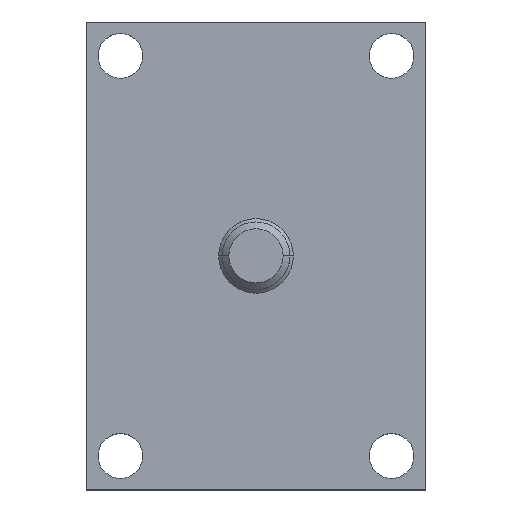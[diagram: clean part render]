
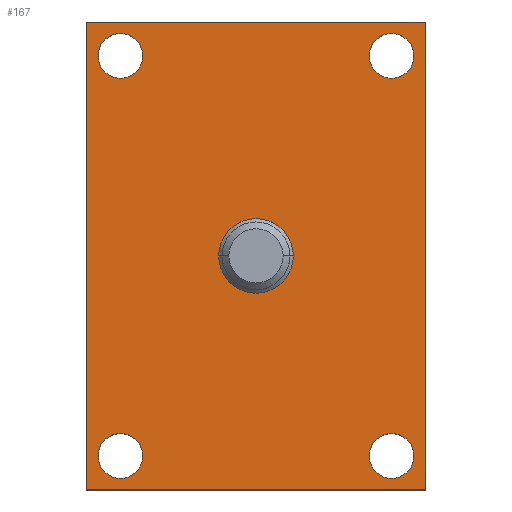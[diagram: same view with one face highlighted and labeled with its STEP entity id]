
A CAD part, top view. The second image highlights one B-rep face of the part: STEP entity #167.
In plain terms, the highlighted planar face has unit normal (0, 0, 1).
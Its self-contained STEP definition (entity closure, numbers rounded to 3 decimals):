
#117=CIRCLE('',#678,3.3);
#118=CIRCLE('',#679,3.3);
#119=CIRCLE('',#680,3.3);
#120=CIRCLE('',#681,3.3);
#121=CIRCLE('',#682,3.3);
#122=CIRCLE('',#683,3.3);
#123=CIRCLE('',#684,3.3);
#124=CIRCLE('',#685,3.3);
#125=CIRCLE('',#686,5.5);
#126=CIRCLE('',#687,5.5);
#149=FACE_BOUND('',#245,.T.);
#150=FACE_BOUND('',#246,.T.);
#151=FACE_BOUND('',#247,.T.);
#152=FACE_BOUND('',#248,.T.);
#153=FACE_BOUND('',#249,.T.);
#154=FACE_BOUND('',#250,.T.);
#167=ADVANCED_FACE('',(#149,#150,#151,#152,#153,#154),#200,.T.);
#200=PLANE('',#688);
#245=EDGE_LOOP('',(#301,#302,#303,#304));
#246=EDGE_LOOP('',(#305,#306));
#247=EDGE_LOOP('',(#307,#308));
#248=EDGE_LOOP('',(#309,#310));
#249=EDGE_LOOP('',(#311,#312));
#250=EDGE_LOOP('',(#313,#314));
#301=ORIENTED_EDGE('',*,*,#498,.T.);
#302=ORIENTED_EDGE('',*,*,#502,.T.);
#303=ORIENTED_EDGE('',*,*,#505,.T.);
#304=ORIENTED_EDGE('',*,*,#508,.T.);
#305=ORIENTED_EDGE('',*,*,#509,.T.);
#306=ORIENTED_EDGE('',*,*,#510,.T.);
#307=ORIENTED_EDGE('',*,*,#511,.T.);
#308=ORIENTED_EDGE('',*,*,#512,.T.);
#309=ORIENTED_EDGE('',*,*,#513,.T.);
#310=ORIENTED_EDGE('',*,*,#514,.T.);
#311=ORIENTED_EDGE('',*,*,#515,.T.);
#312=ORIENTED_EDGE('',*,*,#516,.T.);
#313=ORIENTED_EDGE('',*,*,#517,.T.);
#314=ORIENTED_EDGE('',*,*,#518,.T.);
#446=VERTEX_POINT('',#922);
#447=VERTEX_POINT('',#924);
#450=VERTEX_POINT('',#931);
#452=VERTEX_POINT('',#937);
#453=VERTEX_POINT('',#945);
#454=VERTEX_POINT('',#946);
#455=VERTEX_POINT('',#949);
#456=VERTEX_POINT('',#950);
#457=VERTEX_POINT('',#953);
#458=VERTEX_POINT('',#954);
#459=VERTEX_POINT('',#957);
#460=VERTEX_POINT('',#958);
#461=VERTEX_POINT('',#961);
#462=VERTEX_POINT('',#962);
#498=EDGE_CURVE('',#447,#446,#578,.T.);
#502=EDGE_CURVE('',#446,#450,#582,.T.);
#505=EDGE_CURVE('',#450,#452,#585,.T.);
#508=EDGE_CURVE('',#452,#447,#588,.T.);
#509=EDGE_CURVE('',#453,#454,#117,.T.);
#510=EDGE_CURVE('',#454,#453,#118,.T.);
#511=EDGE_CURVE('',#455,#456,#119,.T.);
#512=EDGE_CURVE('',#456,#455,#120,.T.);
#513=EDGE_CURVE('',#457,#458,#121,.T.);
#514=EDGE_CURVE('',#458,#457,#122,.T.);
#515=EDGE_CURVE('',#459,#460,#123,.T.);
#516=EDGE_CURVE('',#460,#459,#124,.T.);
#517=EDGE_CURVE('',#461,#462,#125,.T.);
#518=EDGE_CURVE('',#462,#461,#126,.T.);
#578=LINE('',#923,#626);
#582=LINE('',#932,#630);
#585=LINE('',#938,#633);
#588=LINE('',#942,#636);
#626=VECTOR('',#742,1.);
#630=VECTOR('',#748,1.);
#633=VECTOR('',#753,1.);
#636=VECTOR('',#758,1.);
#678=AXIS2_PLACEMENT_3D('',#944,#761,#762);
#679=AXIS2_PLACEMENT_3D('',#947,#763,#764);
#680=AXIS2_PLACEMENT_3D('',#948,#765,#766);
#681=AXIS2_PLACEMENT_3D('',#951,#767,#768);
#682=AXIS2_PLACEMENT_3D('',#952,#769,#770);
#683=AXIS2_PLACEMENT_3D('',#955,#771,#772);
#684=AXIS2_PLACEMENT_3D('',#956,#773,#774);
#685=AXIS2_PLACEMENT_3D('',#959,#775,#776);
#686=AXIS2_PLACEMENT_3D('',#960,#777,#778);
#687=AXIS2_PLACEMENT_3D('',#963,#779,#780);
#688=AXIS2_PLACEMENT_3D('',#964,#781,#782);
#742=DIRECTION('',(-1.,0.,0.));
#748=DIRECTION('',(0.,-1.,0.));
#753=DIRECTION('',(1.,0.,0.));
#758=DIRECTION('',(0.,1.,0.));
#761=DIRECTION('',(0.,0.,-1.));
#762=DIRECTION('',(-1.,0.,0.));
#763=DIRECTION('',(0.,0.,-1.));
#764=DIRECTION('',(1.,0.,0.));
#765=DIRECTION('',(0.,0.,-1.));
#766=DIRECTION('',(-1.,0.,0.));
#767=DIRECTION('',(0.,0.,-1.));
#768=DIRECTION('',(1.,0.,0.));
#769=DIRECTION('',(0.,0.,-1.));
#770=DIRECTION('',(-1.,0.,0.));
#771=DIRECTION('',(0.,0.,-1.));
#772=DIRECTION('',(1.,0.,0.));
#773=DIRECTION('',(0.,0.,-1.));
#774=DIRECTION('',(-1.,0.,0.));
#775=DIRECTION('',(0.,0.,-1.));
#776=DIRECTION('',(1.,0.,0.));
#777=DIRECTION('',(0.,0.,-1.));
#778=DIRECTION('',(-1.,0.,0.));
#779=DIRECTION('',(0.,0.,-1.));
#780=DIRECTION('',(1.,0.,0.));
#781=DIRECTION('',(0.,0.,1.));
#782=DIRECTION('',(-1.,0.,0.));
#922=CARTESIAN_POINT('',(-25.,34.5,9.));
#923=CARTESIAN_POINT('',(-25.,34.5,9.));
#924=CARTESIAN_POINT('',(25.,34.5,9.));
#931=CARTESIAN_POINT('',(-25.,-34.5,9.));
#932=CARTESIAN_POINT('',(-25.,34.5,9.));
#937=CARTESIAN_POINT('',(25.,-34.5,9.));
#938=CARTESIAN_POINT('',(-25.,-34.5,9.));
#942=CARTESIAN_POINT('',(25.,34.5,9.));
#944=CARTESIAN_POINT('',(20.,29.5,9.));
#945=CARTESIAN_POINT('',(20.,32.8,9.));
#946=CARTESIAN_POINT('',(20.,26.2,9.));
#947=CARTESIAN_POINT('',(20.,29.5,9.));
#948=CARTESIAN_POINT('',(-20.,29.5,9.));
#949=CARTESIAN_POINT('',(-20.,32.8,9.));
#950=CARTESIAN_POINT('',(-20.,26.2,9.));
#951=CARTESIAN_POINT('',(-20.,29.5,9.));
#952=CARTESIAN_POINT('',(20.,-29.5,9.));
#953=CARTESIAN_POINT('',(20.,-26.2,9.));
#954=CARTESIAN_POINT('',(20.,-32.8,9.));
#955=CARTESIAN_POINT('',(20.,-29.5,9.));
#956=CARTESIAN_POINT('',(-20.,-29.5,9.));
#957=CARTESIAN_POINT('',(-20.,-26.2,9.));
#958=CARTESIAN_POINT('',(-20.,-32.8,9.));
#959=CARTESIAN_POINT('',(-20.,-29.5,9.));
#960=CARTESIAN_POINT('',(0.,0.,9.));
#961=CARTESIAN_POINT('',(0.,5.5,9.));
#962=CARTESIAN_POINT('',(0.,-5.5,9.));
#963=CARTESIAN_POINT('',(0.,0.,9.));
#964=CARTESIAN_POINT('',(25.,34.5,9.));
